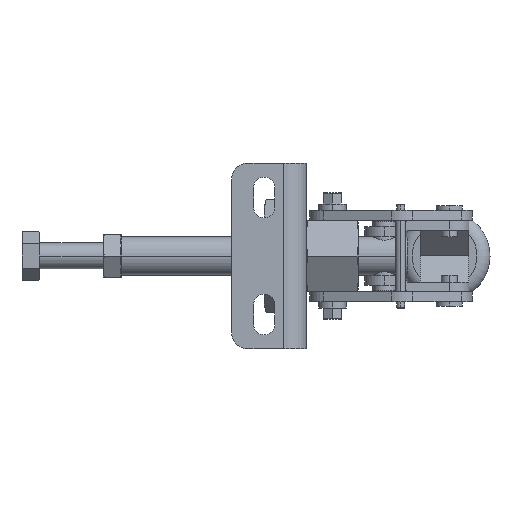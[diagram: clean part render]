
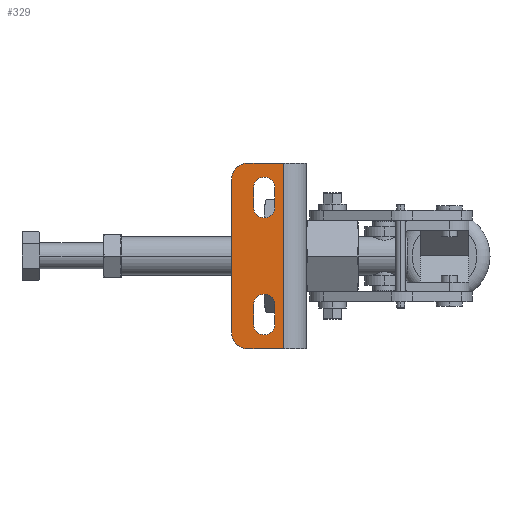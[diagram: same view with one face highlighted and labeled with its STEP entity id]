
A CAD part, front view. The second image highlights one B-rep face of the part: STEP entity #329.
In plain terms, the highlighted planar face has unit normal (0, -1, 0).
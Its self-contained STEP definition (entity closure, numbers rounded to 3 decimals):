
#329 = ADVANCED_FACE( '', ( #651, #652, #653 ), #654, .T. );
#651 = FACE_BOUND( '', #1314, .T. );
#652 = FACE_BOUND( '', #1315, .T. );
#653 = FACE_OUTER_BOUND( '', #1316, .T. );
#654 = PLANE( '', #1317 );
#1314 = EDGE_LOOP( '', ( #2049, #2050, #2051, #2052 ) );
#1315 = EDGE_LOOP( '', ( #2053, #2054, #2055, #2056 ) );
#1316 = EDGE_LOOP( '', ( #2057, #2058, #2059, #2060, #2061, #2062 ) );
#1317 = AXIS2_PLACEMENT_3D( '', #2063, #2064, #2065 );
#2049 = ORIENTED_EDGE( '', *, *, #4383, .T. );
#2050 = ORIENTED_EDGE( '', *, *, #4380, .T. );
#2051 = ORIENTED_EDGE( '', *, *, #4377, .T. );
#2052 = ORIENTED_EDGE( '', *, *, #4386, .T. );
#2053 = ORIENTED_EDGE( '', *, *, #4395, .T. );
#2054 = ORIENTED_EDGE( '', *, *, #4392, .T. );
#2055 = ORIENTED_EDGE( '', *, *, #4389, .T. );
#2056 = ORIENTED_EDGE( '', *, *, #4398, .T. );
#2057 = ORIENTED_EDGE( '', *, *, #4407, .T. );
#2058 = ORIENTED_EDGE( '', *, *, #4411, .T. );
#2059 = ORIENTED_EDGE( '', *, *, #4412, .F. );
#2060 = ORIENTED_EDGE( '', *, *, #4413, .F. );
#2061 = ORIENTED_EDGE( '', *, *, #4403, .T. );
#2062 = ORIENTED_EDGE( '', *, *, #4409, .T. );
#2063 = CARTESIAN_POINT( '', ( -23., -25., 28.6 ) );
#2064 = DIRECTION( '', ( 0., -1., 0. ) );
#2065 = DIRECTION( '', ( -1., 0., 0. ) );
#4377 = EDGE_CURVE( '', #5168, #5166, #5169, .T. );
#4380 = EDGE_CURVE( '', #5173, #5168, #5174, .T. );
#4383 = EDGE_CURVE( '', #5178, #5173, #5179, .T. );
#4386 = EDGE_CURVE( '', #5166, #5178, #5182, .T. );
#4389 = EDGE_CURVE( '', #5188, #5186, #5189, .T. );
#4392 = EDGE_CURVE( '', #5193, #5188, #5194, .T. );
#4395 = EDGE_CURVE( '', #5198, #5193, #5199, .T. );
#4398 = EDGE_CURVE( '', #5186, #5198, #5202, .T. );
#4403 = EDGE_CURVE( '', #5210, #5208, #5211, .T. );
#4407 = EDGE_CURVE( '', #5218, #5216, #5219, .T. );
#4409 = EDGE_CURVE( '', #5208, #5218, #5221, .T. );
#4411 = EDGE_CURVE( '', #5216, #5223, #5224, .T. );
#4412 = EDGE_CURVE( '', #5225, #5223, #5226, .T. );
#4413 = EDGE_CURVE( '', #5210, #5225, #5227, .T. );
#5166 = VERTEX_POINT( '', #6385 );
#5168 = VERTEX_POINT( '', #6388 );
#5169 = CIRCLE( '', #6389, 3.25 );
#5173 = VERTEX_POINT( '', #6395 );
#5174 = LINE( '', #6396, #6397 );
#5178 = VERTEX_POINT( '', #6402 );
#5179 = CIRCLE( '', #6403, 3.25 );
#5182 = LINE( '', #6408, #6409 );
#5186 = VERTEX_POINT( '', #6414 );
#5188 = VERTEX_POINT( '', #6417 );
#5189 = LINE( '', #6418, #6419 );
#5193 = VERTEX_POINT( '', #6424 );
#5194 = CIRCLE( '', #6425, 3.25 );
#5198 = VERTEX_POINT( '', #6431 );
#5199 = LINE( '', #6432, #6433 );
#5202 = CIRCLE( '', #6437, 3.25 );
#5208 = VERTEX_POINT( '', #6443 );
#5210 = VERTEX_POINT( '', #6446 );
#5211 = CIRCLE( '', #6447, 5. );
#5216 = VERTEX_POINT( '', #6453 );
#5218 = VERTEX_POINT( '', #6456 );
#5219 = CIRCLE( '', #6457, 5. );
#5221 = LINE( '', #6460, #6461 );
#5223 = VERTEX_POINT( '', #6464 );
#5224 = LINE( '', #6465, #6466 );
#5225 = VERTEX_POINT( '', #6467 );
#5226 = LINE( '', #6468, #6469 );
#5227 = LINE( '', #6470, #6471 );
#6385 = CARTESIAN_POINT( '', ( -16.25, -25., 15. ) );
#6388 = CARTESIAN_POINT( '', ( -9.75, -25., 15. ) );
#6389 = AXIS2_PLACEMENT_3D( '', #9127, #9128, #9129 );
#6395 = CARTESIAN_POINT( '', ( -9.75, -25., 21. ) );
#6396 = CARTESIAN_POINT( '', ( -9.75, -25., 24.8 ) );
#6397 = VECTOR( '', #9132, 1. );
#6402 = CARTESIAN_POINT( '', ( -16.25, -25., 21. ) );
#6403 = AXIS2_PLACEMENT_3D( '', #9137, #9138, #9139 );
#6408 = CARTESIAN_POINT( '', ( -16.25, -25., 21.8 ) );
#6409 = VECTOR( '', #9142, 1. );
#6414 = CARTESIAN_POINT( '', ( -16.25, -25., -15. ) );
#6417 = CARTESIAN_POINT( '', ( -16.25, -25., -21. ) );
#6418 = CARTESIAN_POINT( '', ( -16.25, -25., 3.8 ) );
#6419 = VECTOR( '', #9145, 1. );
#6424 = CARTESIAN_POINT( '', ( -9.75, -25., -21. ) );
#6425 = AXIS2_PLACEMENT_3D( '', #9150, #9151, #9152 );
#6431 = CARTESIAN_POINT( '', ( -9.75, -25., -15. ) );
#6432 = CARTESIAN_POINT( '', ( -9.75, -25., 6.8 ) );
#6433 = VECTOR( '', #9155, 1. );
#6437 = AXIS2_PLACEMENT_3D( '', #9160, #9161, #9162 );
#6443 = CARTESIAN_POINT( '', ( -23., -25., 23.6 ) );
#6446 = CARTESIAN_POINT( '', ( -18., -25., 28.6 ) );
#6447 = AXIS2_PLACEMENT_3D( '', #9173, #9174, #9175 );
#6453 = CARTESIAN_POINT( '', ( -18., -25., -28.6 ) );
#6456 = CARTESIAN_POINT( '', ( -23., -25., -23.6 ) );
#6457 = AXIS2_PLACEMENT_3D( '', #9181, #9182, #9183 );
#6460 = CARTESIAN_POINT( '', ( -23., -25., 28.6 ) );
#6461 = VECTOR( '', #9185, 1. );
#6464 = CARTESIAN_POINT( '', ( -7., -25., -28.6 ) );
#6465 = CARTESIAN_POINT( '', ( -23., -25., -28.6 ) );
#6466 = VECTOR( '', #9187, 1. );
#6467 = CARTESIAN_POINT( '', ( -7., -25., 28.6 ) );
#6468 = CARTESIAN_POINT( '', ( -7., -25., 28.6 ) );
#6469 = VECTOR( '', #9188, 1. );
#6470 = CARTESIAN_POINT( '', ( -23., -25., 28.6 ) );
#6471 = VECTOR( '', #9189, 1. );
#9127 = CARTESIAN_POINT( '', ( -13., -25., 15. ) );
#9128 = DIRECTION( '', ( 0., 1., 0. ) );
#9129 = DIRECTION( '', ( 1., 0., 0. ) );
#9132 = DIRECTION( '', ( 0., 0., -1. ) );
#9137 = CARTESIAN_POINT( '', ( -13., -25., 21. ) );
#9138 = DIRECTION( '', ( 0., 1., 0. ) );
#9139 = DIRECTION( '', ( -1., 0., 0. ) );
#9142 = DIRECTION( '', ( 0., 0., 1. ) );
#9145 = DIRECTION( '', ( 0., 0., 1. ) );
#9150 = CARTESIAN_POINT( '', ( -13., -25., -21. ) );
#9151 = DIRECTION( '', ( 0., 1., 0. ) );
#9152 = DIRECTION( '', ( 1., 0., 0. ) );
#9155 = DIRECTION( '', ( 0., 0., -1. ) );
#9160 = CARTESIAN_POINT( '', ( -13., -25., -15. ) );
#9161 = DIRECTION( '', ( 0., 1., 0. ) );
#9162 = DIRECTION( '', ( -1., 0., 0. ) );
#9173 = CARTESIAN_POINT( '', ( -18., -25., 23.6 ) );
#9174 = DIRECTION( '', ( 0., -1., 0. ) );
#9175 = DIRECTION( '', ( -1., 0., 0. ) );
#9181 = CARTESIAN_POINT( '', ( -18., -25., -23.6 ) );
#9182 = DIRECTION( '', ( 0., -1., 0. ) );
#9183 = DIRECTION( '', ( 0., 0., -1. ) );
#9185 = DIRECTION( '', ( 0., 0., -1. ) );
#9187 = DIRECTION( '', ( 1., 0., 0. ) );
#9188 = DIRECTION( '', ( 0., 0., -1. ) );
#9189 = DIRECTION( '', ( 1., 0., 0. ) );
